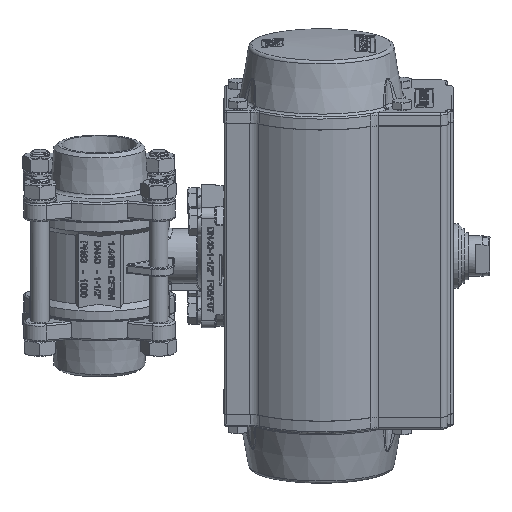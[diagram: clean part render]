
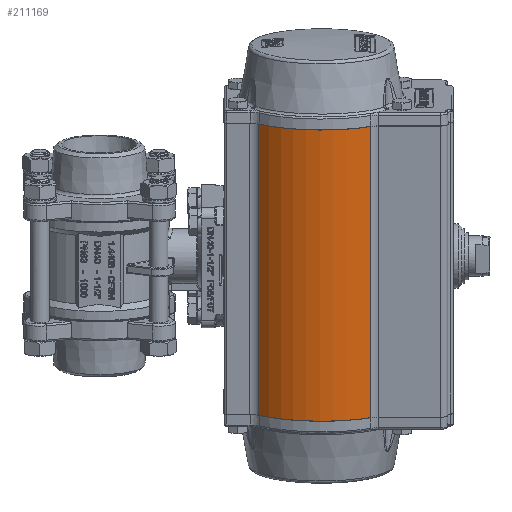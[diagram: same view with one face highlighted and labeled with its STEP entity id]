
A CAD part, top view. The second image highlights one B-rep face of the part: STEP entity #211169.
In plain terms, the highlighted cylindrical face has radius 47.5 mm (diameter 95 mm), a partial arc.
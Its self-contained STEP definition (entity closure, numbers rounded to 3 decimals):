
#207742=CARTESIAN_POINT('',(-21.88,-22.556,-24.353));
#207743=VERTEX_POINT('',#207742);
#207751=CARTESIAN_POINT('',(39.219,-23.902,-18.581));
#207752=VERTEX_POINT('',#207751);
#207753=CARTESIAN_POINT('',(12.169,-15.032,-56.606));
#207754=DIRECTION('',(0.0,0.974,0.227));
#207755=DIRECTION('',(-1.0,0.0,0.0));
#207756=AXIS2_PLACEMENT_3D('',#207753,#207754,#207755);
#207757=CIRCLE('',#207756,47.5);
#207758=EDGE_CURVE('',#207743,#207752,#207757,.T.);
#211127=CARTESIAN_POINT('',(39.219,-182.64,-55.613));
#211128=VERTEX_POINT('',#211127);
#211129=CARTESIAN_POINT('',(39.219,-23.902,-18.581));
#211130=DIRECTION('',(0.,-0.974,-0.227));
#211131=VECTOR('',#211130,163.0);
#211132=LINE('',#211129,#211131);
#211133=EDGE_CURVE('',#207752,#211128,#211132,.T.);
#211145=CARTESIAN_POINT('',(12.169,-15.032,-56.606));
#211146=DIRECTION('',(0.,-0.974,-0.227));
#211147=DIRECTION('',(-1.0,0.0,0.0));
#211148=AXIS2_PLACEMENT_3D('',#211145,#211146,#211147);
#211149=CYLINDRICAL_SURFACE('',#211148,47.5);
#211150=CARTESIAN_POINT('',(-21.88,-181.294,-61.384));
#211151=VERTEX_POINT('',#211150);
#211152=CARTESIAN_POINT('',(12.169,-173.769,-93.638));
#211153=DIRECTION('',(0.0,-0.974,-0.227));
#211154=DIRECTION('',(-1.0,0.0,0.0));
#211155=AXIS2_PLACEMENT_3D('',#211152,#211153,#211154);
#211156=CIRCLE('',#211155,47.5);
#211157=EDGE_CURVE('',#211128,#211151,#211156,.T.);
#211158=ORIENTED_EDGE('',*,*,#211157,.F.);
#211159=ORIENTED_EDGE('',*,*,#211133,.F.);
#211160=ORIENTED_EDGE('',*,*,#207758,.F.);
#211161=CARTESIAN_POINT('',(-21.88,-181.294,-61.384));
#211162=DIRECTION('',(0.,0.974,0.227));
#211163=VECTOR('',#211162,163.0);
#211164=LINE('',#211161,#211163);
#211165=EDGE_CURVE('',#211151,#207743,#211164,.T.);
#211166=ORIENTED_EDGE('',*,*,#211165,.F.);
#211167=EDGE_LOOP('',(#211158,#211159,#211160,#211166));
#211168=FACE_OUTER_BOUND('',#211167,.T.);
#211169=ADVANCED_FACE('',(#211168),#211149,.T.);
